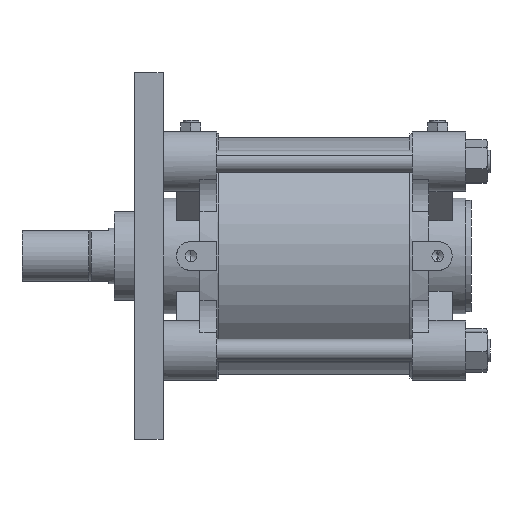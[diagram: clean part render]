
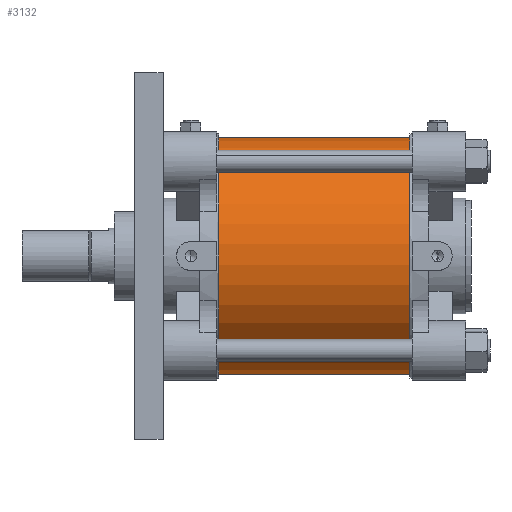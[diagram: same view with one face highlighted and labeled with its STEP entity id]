
A CAD part, front view. The second image highlights one B-rep face of the part: STEP entity #3132.
In plain terms, the highlighted cylindrical face has radius 106.5 mm (diameter 213 mm), a partial arc.
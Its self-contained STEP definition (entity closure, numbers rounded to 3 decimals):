
#61 = CARTESIAN_POINT ( 'NONE',  ( -86., 0., 106.5 ) ) ;
#187 = DIRECTION ( 'NONE',  ( -1., 0., 0. ) ) ;
#431 = VECTOR ( 'NONE', #8620, 1000. ) ;
#443 = VERTEX_POINT ( 'NONE', #61 ) ;
#523 = VERTEX_POINT ( 'NONE', #2062 ) ;
#528 = ORIENTED_EDGE ( 'NONE', *, *, #3978, .T. ) ;
#641 = CYLINDRICAL_SURFACE ( 'NONE', #1033, 106.5 ) ;
#1033 = AXIS2_PLACEMENT_3D ( 'NONE', #9904, #6569, #4174 ) ;
#1602 = EDGE_CURVE ( 'NONE', #523, #8542, #7770, .T. ) ;
#2062 = CARTESIAN_POINT ( 'NONE',  ( 86., 0., -106.5 ) ) ;
#2268 = AXIS2_PLACEMENT_3D ( 'NONE', #6246, #9436, #4195 ) ;
#2354 = CARTESIAN_POINT ( 'NONE',  ( 86., 0., 106.5 ) ) ;
#3132 = ADVANCED_FACE ( 'NONE', ( #3659 ), #641, .T. ) ;
#3182 = CARTESIAN_POINT ( 'NONE',  ( 86., 0., -106.5 ) ) ;
#3659 = FACE_OUTER_BOUND ( 'NONE', #9737, .T. ) ;
#3768 = CARTESIAN_POINT ( 'NONE',  ( -86., 0., -106.5 ) ) ;
#3978 = EDGE_CURVE ( 'NONE', #443, #8542, #7336, .T. ) ;
#4174 = DIRECTION ( 'NONE',  ( 0., 0., 1. ) ) ;
#4195 = DIRECTION ( 'NONE',  ( 0., 0., -1. ) ) ;
#4362 = CARTESIAN_POINT ( 'NONE',  ( 86., 0., 106.5 ) ) ;
#5247 = ORIENTED_EDGE ( 'NONE', *, *, #9089, .F. ) ;
#5679 = DIRECTION ( 'NONE',  ( 0., 0., -1. ) ) ;
#6184 = DIRECTION ( 'NONE',  ( 1., 0., 0. ) ) ;
#6246 = CARTESIAN_POINT ( 'NONE',  ( -86., 0., 0. ) ) ;
#6569 = DIRECTION ( 'NONE',  ( -1., 0., 0. ) ) ;
#6962 = LINE ( 'NONE', #2354, #7994 ) ;
#7336 = CIRCLE ( 'NONE', #2268, 106.5 ) ;
#7770 = LINE ( 'NONE', #3182, #431 ) ;
#7914 = ORIENTED_EDGE ( 'NONE', *, *, #1602, .F. ) ;
#7963 = EDGE_CURVE ( 'NONE', #10345, #443, #6962, .T. ) ;
#7994 = VECTOR ( 'NONE', #187, 1000. ) ;
#8475 = AXIS2_PLACEMENT_3D ( 'NONE', #9365, #6184, #5679 ) ;
#8542 = VERTEX_POINT ( 'NONE', #3768 ) ;
#8620 = DIRECTION ( 'NONE',  ( -1., 0., 0. ) ) ;
#8928 = CIRCLE ( 'NONE', #8475, 106.5 ) ;
#9089 = EDGE_CURVE ( 'NONE', #10345, #523, #8928, .T. ) ;
#9365 = CARTESIAN_POINT ( 'NONE',  ( 86., 0., 0. ) ) ;
#9436 = DIRECTION ( 'NONE',  ( 1., 0., 0. ) ) ;
#9737 = EDGE_LOOP ( 'NONE', ( #7914, #5247, #9784, #528 ) ) ;
#9784 = ORIENTED_EDGE ( 'NONE', *, *, #7963, .T. ) ;
#9904 = CARTESIAN_POINT ( 'NONE',  ( 86., 0., 0. ) ) ;
#10345 = VERTEX_POINT ( 'NONE', #4362 ) ;
